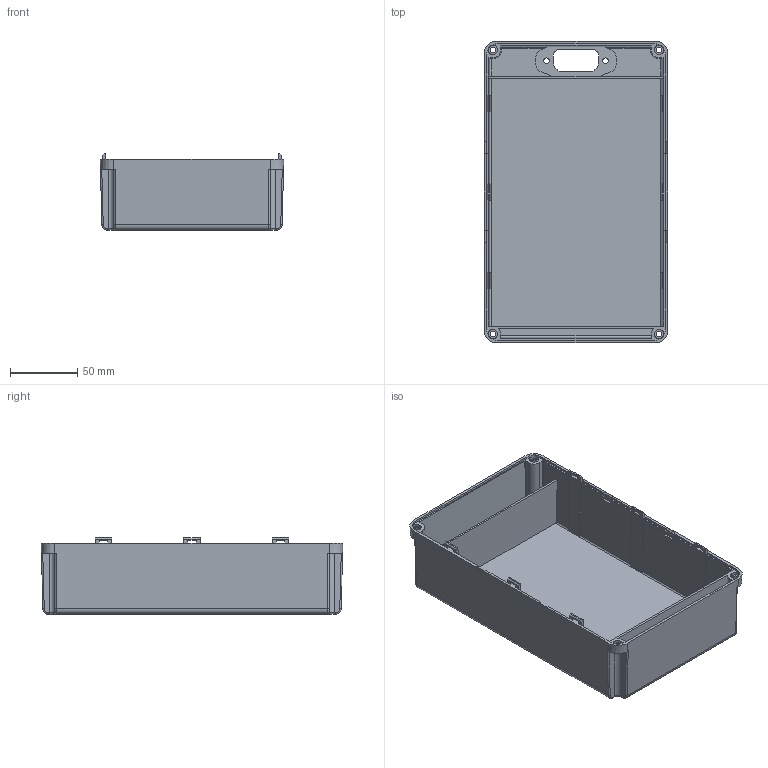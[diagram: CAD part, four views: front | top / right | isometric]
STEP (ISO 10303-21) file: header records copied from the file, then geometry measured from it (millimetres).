
FILE_DESCRIPTION(/* description */ ('STEP AP242 Edition 2','CAx-IF Rec.Pracs.---Representation and Presentation of Product Manufacturing Information (PMI)---4.0---2014-10-13','CAx-IF Rec.Pracs.---3D Tessellated Geometry---0.4---2014-09-14','2;1','CAx-IF Rec.Pracs.---User Defined Attributes---1.5---2016-08-15'),/* implementation_level */ '2;1');
FILE_NAME(/* name */ 'Assy_ForMFG - KD-B-306X_BATTERY_BACK',/* time_stamp */ '2026-05-15T19:56:28Z',/* author */ (''),/* organization */ (''),/* preprocessor_version */ 'ST-DEVELOPER v20',/* originating_system */ 'ONSHAPE BY PTC INC, 1.215',/* authorisation */ ' ');
FILE_SCHEMA (('AP242_MANAGED_MODEL_BASED_3D_ENGINEERING_MIM_LF { 1 0 10303 442 3 1 4 }'));
Length unit declared in the file: metre
Products named in the file (1): KD-B-306X_BATTERY_BACK
Bounding box: 137 x 225 x 57 mm (x, y, z)
Volume: 207738.5 mm3; surface area: 152615.8 mm2
Topology: 1 solids, 1 shells, 268 faces, 766 edges, 496 vertices
Faces by surface type: plane 167, cylinder 79, torus 18, cone 4
Full cylindrical faces by diameter (mm): 4.2 x6, 7 x4
Entity records: 8652 total; most frequent: CARTESIAN_POINT 1511, ORIENTED_EDGE 1496, DIRECTION 1484, EDGE_CURVE 748, LINE 546, VECTOR 546, VERTEX_POINT 488, AXIS2_PLACEMENT_3D 469
